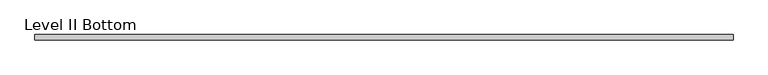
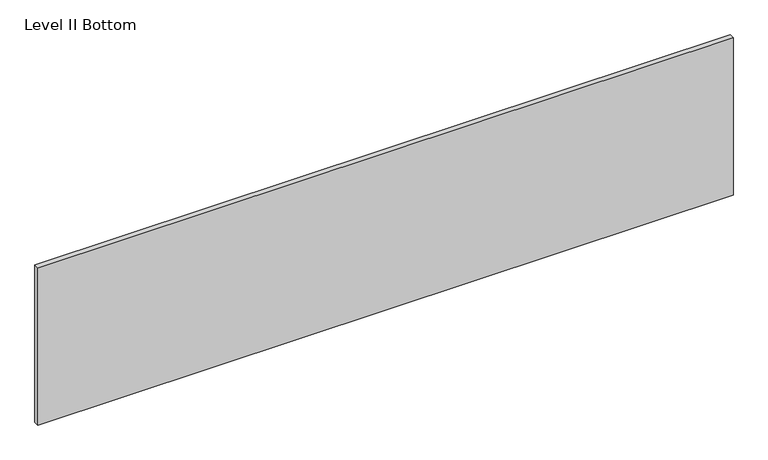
"""IFC4 building model written with IfcOpenShell, lengths in millimetres: proxy geometry, Panel-Fascia-Teknion-Altos-Landscape : Level II Bottom."""

from ifc_helpers import new_model, si_unit, frame, origin, place, context, project, spatial, polyline, outline, extrude, source, transform, mapped, element, save


def level_ii_bottom_6d1693ca(model_context):
    return source(origin(), model_context, "Body", "SweptSolid", [
        extrude(outline(polyline([(1259.8356344, 9.525), (1259.8356344, -9.525), (-1259.8356344, -9.525), (-1259.8356344, 9.525), (1259.8356344, 9.525)])), frame((0.0, 0.0, 3.175), z_axis=(0.0, 0.0, 1.0), x_axis=(1.0, 0.0, 0.0)), (0.0, 0.0, 1.0), 603.25),
    ])


if __name__ == "__main__":
    model = new_model("IFC4")
    model_context = context("Model", 3, world=origin())
    ifc_project = project(units=[si_unit("LENGTHUNIT", "METRE", prefix="MILLI")], contexts=[model_context])
    site = spatial("IfcSite", under=ifc_project)
    building = spatial("IfcBuilding", under=site)
    placement = place(None, origin())
    level_ii_bottom_shape = level_ii_bottom_6d1693ca(model_context)
    element("IfcBuildingElementProxy", 1, Name="Panel-Fascia-Teknion-Altos-Landscape : Level II Bottom", ObjectType="Panel-Fascia-Teknion-Altos-Landscape : Level II Bottom", at=placement, inside=building, context=model_context, shape_type="MappedRepresentation", body=[
        mapped(level_ii_bottom_shape, transform((0.0, 0.0, 0.0), x_axis=(1.0, 0.0, 0.0), y_axis=(0.0, 1.0, 0.0), z_axis=(0.0, 0.0, 1.0))),
    ])
    save(model, "model.ifc")
